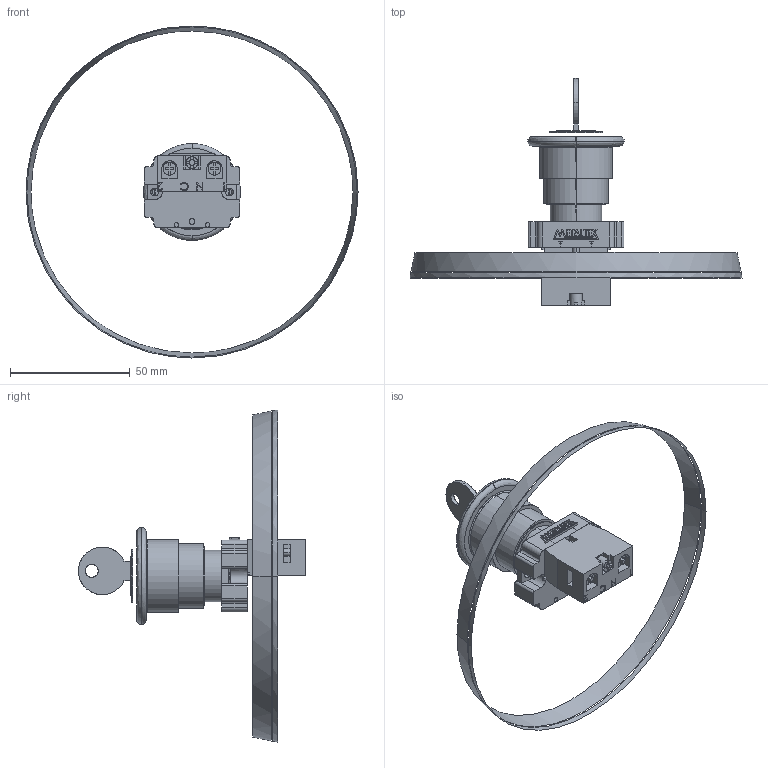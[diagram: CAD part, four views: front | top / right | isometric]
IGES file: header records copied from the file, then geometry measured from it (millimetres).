
Start section: SolidWorks IGES file using analytic representation for surfaces
Global section: file name: D:\X - Arquivos\PROEX\Empresas\P11 - METALTEX\01 - Produtos\IGES\6ª remessa\1ª etapa\M20ACR-R-1B.IGS; native system: SolidWorks 2012; preprocessor: SolidWorks 2012; author: Usuario; date: 190125.145559; units: millimetre
Bounding box: 138.49 x 94.75 x 138.49 mm (x, y, z)
Surface area: 18186.5 mm2 (no closed solid volume)
Topology: 0 solids, 0 shells, 374 faces, 4170 edges, 4170 vertices
Faces by surface type: bspline 292, revolution 82
